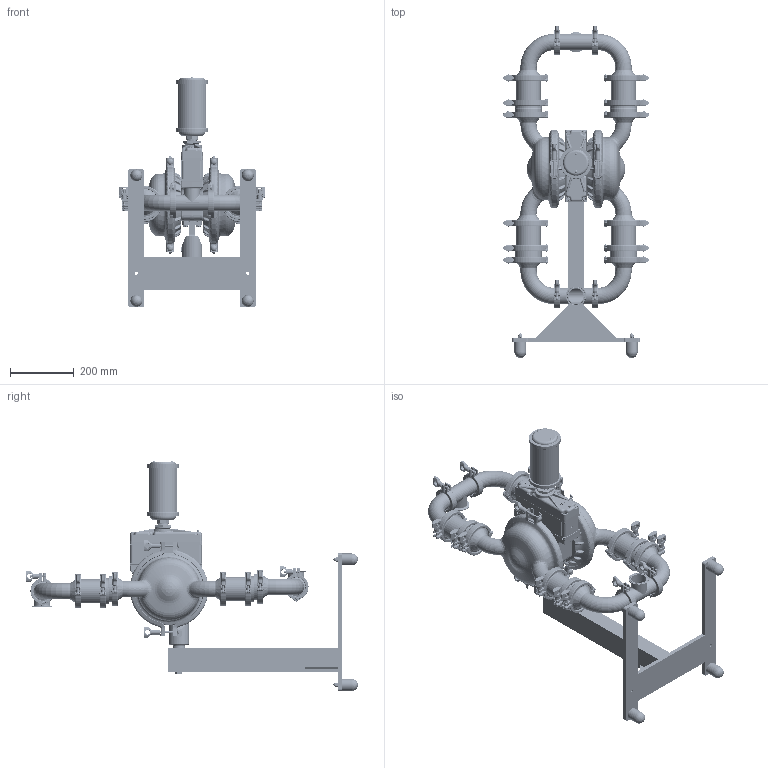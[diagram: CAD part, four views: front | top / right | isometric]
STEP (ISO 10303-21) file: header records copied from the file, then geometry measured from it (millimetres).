
FILE_DESCRIPTION((''),'2;1');
FILE_NAME('PS8_SS_SANIFLO_HS_FLA_SW0004','2015-04-07T',('nathan.hale'),(''),'PRO/ENGINEER BY PARAMETRIC TECHNOLOGY CORPORATION, 2013320','PRO/ENGINEER BY PARAMETRIC TECHNOLOGY CORPORATION, 2013320','');
FILE_SCHEMA(('CONFIG_CONTROL_DESIGN'));
Products named in the file (1): PS8_SS_SANIFLO_HS_FLA_SW0004
Bounding box: 460.1 x 1040.71 x 721.39 mm (x, y, z)
Volume: 9124877.3 mm3; surface area: 2760695.3 mm2
Topology: 21 solids, 37 shells, 18134 faces, 46013 edges, 28297 vertices
Faces by surface type: plane 8311, cylinder 3209, bspline 2623, torus 2121, cone 1138, sphere 577, extrusion 155
Entity records: 1070701 total; most frequent: CARTESIAN_POINT 652033, ORIENTED_EDGE 91556, DIRECTION 81385, EDGE_CURVE 45778, VERTEX_POINT 28297, AXIS2_PLACEMENT_3D 27890, VECTOR 25605, LINE 25450
